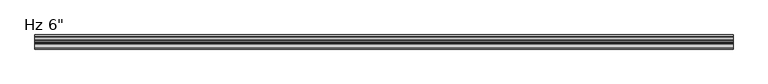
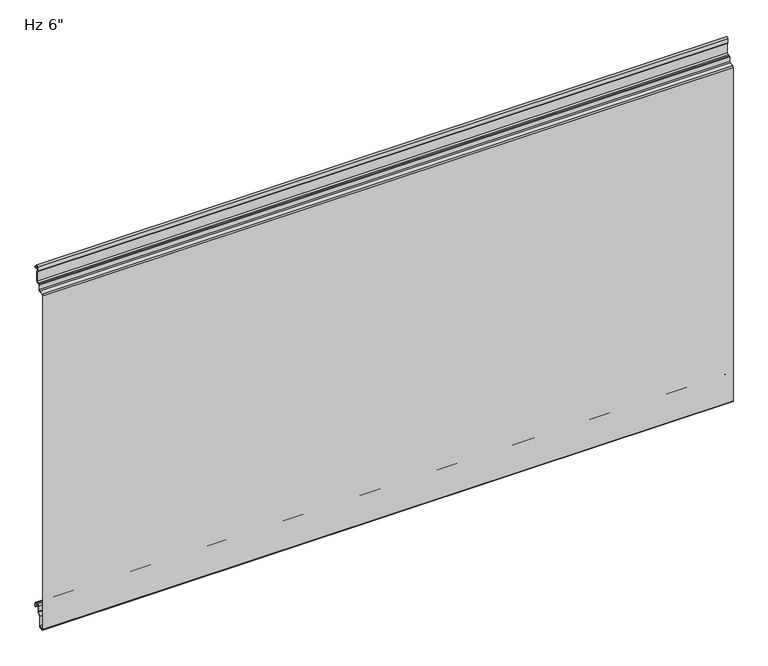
"""IFC4 building model written with IfcOpenShell, lengths in millimetres: plate geometry."""

from ifc_helpers import new_model, si_unit, point, frame, frame_2d, origin, place, context, project, spatial, polyline, circle_curve, trimmed, segment, composite_curve, outline, extrude, source, transform, mapped, element, save


def plate_60676c1a(model_context):
    return source(origin(), model_context, "Body", "SweptSolid", [
        extrude(outline(composite_curve([segment(trimmed(circle_curve(frame_2d((-148.8296795, -32.4521105)), 3.5702393), [point((-148.5184091, -36.0087549))], [point((-152.3999188, -32.4521083))], False, "CARTESIAN"), True, "CONTINUOUS"), segment(polyline([(-152.3999188, -32.4521083), (-152.3994418, 713.5384307)]), True, "CONTINUOUS"), segment(trimmed(circle_curve(frame_2d((-149.4494477, 713.5384288)), 2.9499941), [point((-152.3994418, 713.5384307))], [point((-149.7065566, 716.4771973))], False, "CARTESIAN"), True, "CONTINUOUS"), segment(polyline([(-149.7065566, 716.4771973), (-141.242179, 717.2177344)]), True, "CONTINUOUS"), segment(trimmed(circle_curve(frame_2d((-141.4191048, 719.2400056)), 2.0299959), [point((-141.242179, 717.2177344))], [point((-139.3917189, 719.3429135))], True, "CARTESIAN"), True, "CONTINUOUS"), segment(polyline([(-139.3917189, 719.3429135), (-139.3917189, 729.458279)]), True, "CONTINUOUS"), segment(trimmed(circle_curve(frame_2d((-137.4425659, 729.4595944)), 1.9491534), [point((-139.3917189, 729.458279))], [point((-137.4425659, 731.4087478))], False, "CARTESIAN"), True, "CONTINUOUS"), segment(polyline([(-137.4425659, 731.4087478), (-134.3011658, 731.4087475)]), True, "CONTINUOUS"), segment(trimmed(circle_curve(frame_2d((-134.3011658, 734.4087415)), 2.999994), [point((-134.3011658, 731.4087475))], [point((-131.3011718, 734.4087415))], True, "CARTESIAN"), True, "CONTINUOUS"), segment(polyline([(-131.3011718, 734.4087415), (-131.3011718, 755.0122013), (-132.5470159, 755.7314897)]), True, "CONTINUOUS"), segment(trimmed(circle_curve(frame_2d((-131.8220173, 756.987224)), 1.4499971), [point((-132.5470159, 755.7314897))], [point((-133.2712455, 757.0344401))], False, "CARTESIAN"), True, "CONTINUOUS"), segment(polyline([(-133.2712455, 757.0344401), (-132.9263372, 765.7463704)]), True, "CONTINUOUS"), segment(trimmed(circle_curve(frame_2d((-129.8268913, 765.6236622)), 3.1018739), [point((-132.9263372, 765.7463704))], [point((-126.7277704, 765.7543204))], False, "CARTESIAN"), True, "CONTINUOUS"), segment(polyline([(-126.7277704, 765.7543204), (-126.4839836, 761.7587)]), True, "CONTINUOUS"), segment(trimmed(circle_curve(frame_2d((-125.6437539, 761.8099653)), 0.8417922), [point((-126.4839836, 761.7587))], [point((-125.6732011, 760.9686884))], True, "CARTESIAN"), True, "CONTINUOUS"), segment(polyline([(-125.6732011, 760.9686884), (-122.9027683, 760.9686884), (-122.9027683, 759.9686884), (-125.6873149, 759.9686884)]), True, "CONTINUOUS"), segment(trimmed(circle_curve(frame_2d((-125.6437539, 761.8099653)), 1.8417922), [point((-125.6873149, 759.9686884))], [point((-127.4821274, 761.6977997))], False, "CARTESIAN"), True, "CONTINUOUS"), segment(polyline([(-127.4821274, 761.6977997), (-127.7265424, 765.7037148)]), True, "CONTINUOUS"), segment(trimmed(circle_curve(frame_2d((-129.8268913, 765.6236622)), 2.1018739), [point((-127.7265424, 765.7037148))], [point((-131.9271199, 765.706811))], True, "CARTESIAN"), True, "CONTINUOUS"), segment(polyline([(-131.9271199, 765.706811), (-132.2823803, 756.7334028), (-130.3011718, 755.5895515), (-130.3011718, 734.4087415)]), True, "CONTINUOUS"), segment(trimmed(circle_curve(frame_2d((-134.3011658, 734.4087415)), 3.999994), [point((-130.3011718, 734.4087415))], [point((-134.3011658, 730.4087475))], False, "CARTESIAN"), True, "CONTINUOUS"), segment(polyline([(-134.3011658, 730.4087475), (-137.4425659, 730.4087475)]), True, "CONTINUOUS"), segment(trimmed(circle_curve(frame_2d((-137.4425659, 729.4595944)), 0.9491534), [point((-137.4425659, 730.4087475))], [point((-138.3917189, 729.4586765))], True, "CARTESIAN"), True, "CONTINUOUS"), segment(polyline([(-138.3917189, 729.4586765), (-138.3917189, 719.3657441)]), True, "CONTINUOUS"), segment(trimmed(circle_curve(frame_2d((-141.4191048, 719.2400056)), 3.0299959), [point((-138.3917189, 719.3657441))], [point((-141.1550232, 716.2215397))], False, "CARTESIAN"), True, "CONTINUOUS"), segment(polyline([(-141.1550232, 716.2215397), (-149.6193197, 715.4810097)]), True, "CONTINUOUS"), segment(trimmed(circle_curve(frame_2d((-149.4493665, 713.5384359)), 1.9499941), [point((-149.6193197, 715.4810097))], [point((-151.3993606, 713.5384359))], True, "CARTESIAN"), True, "CONTINUOUS"), segment(polyline([(-151.3993606, 713.5384359), (-151.3993606, -32.509446)]), True, "CONTINUOUS"), segment(trimmed(circle_curve(frame_2d((-148.8297607, -32.4521176)), 2.5702393), [point((-151.3993606, -32.509446))], [point((-148.6056751, -35.0125699))], True, "CARTESIAN"), True, "CONTINUOUS"), segment(polyline([(-148.6056751, -35.0125699), (-143.6238542, -34.5765709)]), True, "CONTINUOUS"), segment(trimmed(circle_curve(frame_2d((-144.1052448, -31.9198392)), 2.6999926), [point((-143.6238542, -34.5765709))], [point((-141.4052522, -31.9198392))], True, "CARTESIAN"), True, "CONTINUOUS"), segment(polyline([(-141.4052522, -31.9198392), (-141.4052522, -9.8247096), (-135.9031811, -4.3226385)]), True, "CONTINUOUS"), segment(trimmed(circle_curve(frame_2d((-137.1052588, -3.1205608)), 1.6999946), [point((-135.9031811, -4.3226385))], [point((-135.4052642, -3.1205608))], True, "CARTESIAN"), True, "CONTINUOUS"), segment(polyline([(-135.4052642, -3.1205608), (-135.4052642, 8.6903283)]), True, "CONTINUOUS"), segment(trimmed(circle_curve(frame_2d((-132.0552689, 8.6903283)), 3.3499953), [point((-135.4052642, 8.6903283))], [point((-132.0552689, 12.0403236))], False, "CARTESIAN"), True, "CONTINUOUS"), segment(polyline([(-132.0552689, 12.0403236), (-127.6552777, 12.0403236)]), True, "CONTINUOUS"), segment(trimmed(circle_curve(frame_2d((-127.6552777, 8.6903283)), 3.3499953), [point((-127.6552777, 12.0403236))], [point((-124.3052824, 8.6903283))], False, "CARTESIAN"), True, "CONTINUOUS"), segment(polyline([(-124.3052824, 8.6903283), (-124.3052824, 5.9912173), (-122.9068035, 5.9912173), (-122.9068035, 2.2328239)]), True, "CONTINUOUS"), segment(trimmed(circle_curve(frame_2d((-124.1068002, 2.2313092)), 1.1999976), [point((-122.9068035, 2.2328239))], [point((-124.0762782, 1.0316999))], False, "CARTESIAN"), True, "CONTINUOUS"), segment(trimmed(circle_curve(frame_2d((-124.1068002, 2.2313092)), 1.1999976), [point((-124.0762782, 1.0316999))], [point((-125.3052824, 2.1710221))], False, "CARTESIAN"), True, "CONTINUOUS"), segment(polyline([(-125.3052824, 2.1710221), (-125.3052824, 8.6903283)]), True, "CONTINUOUS"), segment(trimmed(circle_curve(frame_2d((-127.6552777, 8.6903283)), 2.3499953), [point((-125.3052824, 8.6903283))], [point((-127.6552777, 11.0403236))], True, "CARTESIAN"), True, "CONTINUOUS"), segment(polyline([(-127.6552777, 11.0403236), (-132.0552689, 11.0403236)]), True, "CONTINUOUS"), segment(trimmed(circle_curve(frame_2d((-132.0552689, 8.6903283)), 2.3499953), [point((-132.0552689, 11.0403236))], [point((-134.4052642, 8.6903283))], True, "CARTESIAN"), True, "CONTINUOUS"), segment(polyline([(-134.4052642, 8.6903283), (-134.4052642, -3.1205608)]), True, "CONTINUOUS"), segment(trimmed(circle_curve(frame_2d((-137.1052588, -3.1205608)), 2.6999946), [point((-134.4052642, -3.1205608))], [point((-135.1960743, -5.0297453))], False, "CARTESIAN"), True, "CONTINUOUS"), segment(polyline([(-135.1960743, -5.0297453), (-140.0244918, -9.8581627)]), True, "CONTINUOUS"), segment(trimmed(circle_curve(frame_2d((-139.1052548, -10.7773997)), 1.2999974), [point((-140.0244918, -9.8581627))], [point((-140.4052522, -10.7773997))], True, "CARTESIAN"), True, "CONTINUOUS"), segment(polyline([(-140.4052522, -10.7773997), (-140.4052522, -31.9198392)]), True, "CONTINUOUS"), segment(trimmed(circle_curve(frame_2d((-144.1052448, -31.9198392)), 3.6999926), [point((-140.4052522, -31.9198392))], [point((-143.4944437, -35.5690675))], False, "CARTESIAN"), True, "CONTINUOUS"), segment(polyline([(-143.4944437, -35.5690675), (-148.5184091, -36.0087549)]), True, "CONTINUOUS")], self_intersect=False)), frame((-730.0, 0.0, 0.0), z_axis=(1.0, 0.0, 0.0), x_axis=(0.0, 1.0, 0.0)), (0.0, 0.0, 1.0), 1460.0),
    ])


if __name__ == "__main__":
    model = new_model("IFC4")
    model_context = context("Model", 3, world=origin())
    ifc_project = project(units=[si_unit("LENGTHUNIT", "METRE", prefix="MILLI")], contexts=[model_context])
    site = spatial("IfcSite", under=ifc_project)
    building = spatial("IfcBuilding", under=site)
    placement = place(None, origin())
    plate_shape = plate_60676c1a(model_context)
    element("IfcPlate", 1, ObjectType="KIP-30-Karrier-KP-R19-CP-Hz-FL3-8in_SL : Hz 6\"", at=placement, inside=building, context=model_context, shape_type="MappedRepresentation", body=[
        mapped(plate_shape, transform((0.0, 0.0, 0.0), x_axis=(1.0, 0.0, 0.0), y_axis=(0.0, 1.0, 0.0), z_axis=(0.0, 0.0, 1.0))),
    ])
    save(model, "model.ifc")
